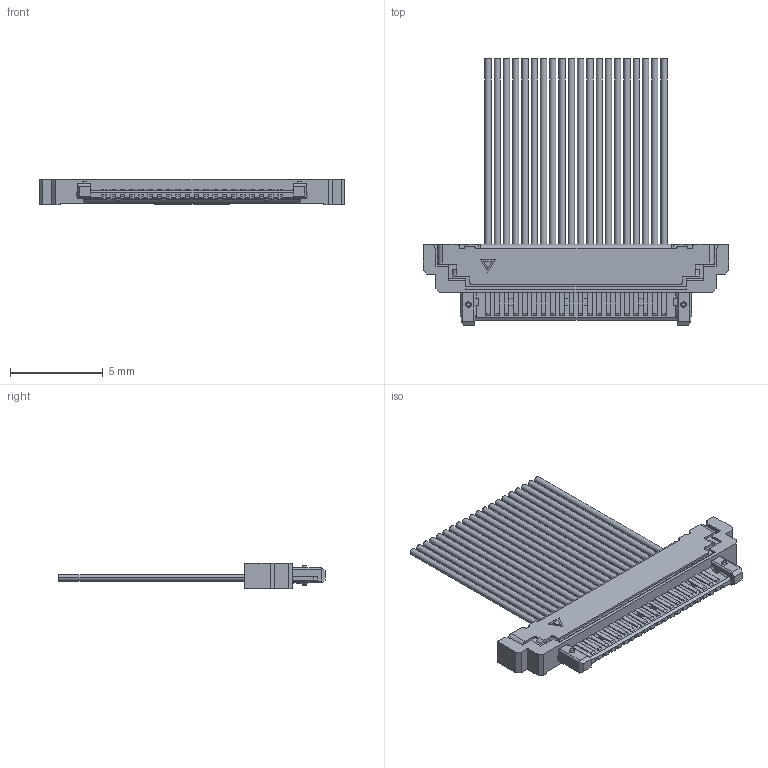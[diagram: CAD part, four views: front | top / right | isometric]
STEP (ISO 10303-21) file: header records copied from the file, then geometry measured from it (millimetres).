
FILE_DESCRIPTION(('Creo Elements/Direct Modeling STEP Export'),'2;1');
FILE_NAME('P3A798_SSL20-20SB.stp','2022-01-13T10:15:30',(''),(''),'Creo Elements/Direct Modeling STEP processor for AP214 (Solid Model)','Creo Elements/Direct Modeling 20.2 28-Feb-2019 (C) Parametric Technology GmbH','');
FILE_SCHEMA(('AUTOMOTIVE_DESIGN { 1 0 10303 214 1 1 1 1 }'));
Length unit declared in the file: millimetre
Products named in the file (2): P3A798_SSL20-20SB
Assembly tree (1 placements, depth 2):
  P3A798_SSL20-20SB
    P3A798_SSL20-20SB
Bounding box: 16.5 x 14.35 x 1.4 mm (x, y, z)
Volume: 79.7 mm3; surface area: 406.7 mm2
Topology: 1 solids, 1 shells, 599 faces, 1615 edges, 1058 vertices
Faces by surface type: plane 474, cylinder 113, cone 8, torus 4
Entity records: 18307 total; most frequent: ORIENTED_EDGE 3230, CARTESIAN_POINT 3212, DIRECTION 2964, EDGE_CURVE 1615, VECTOR 1344, LINE 1344, VERTEX_POINT 1058, AXIS2_PLACEMENT_3D 810
